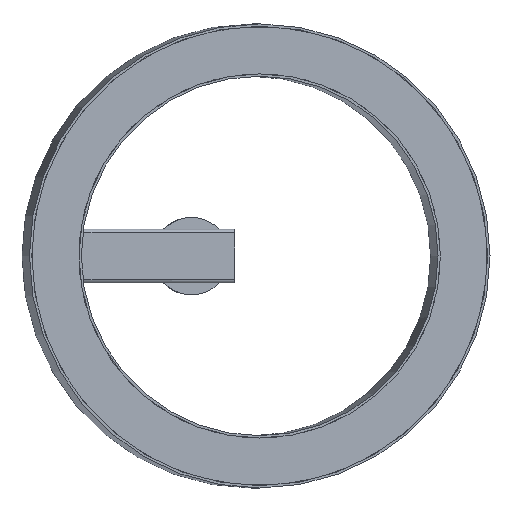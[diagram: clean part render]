
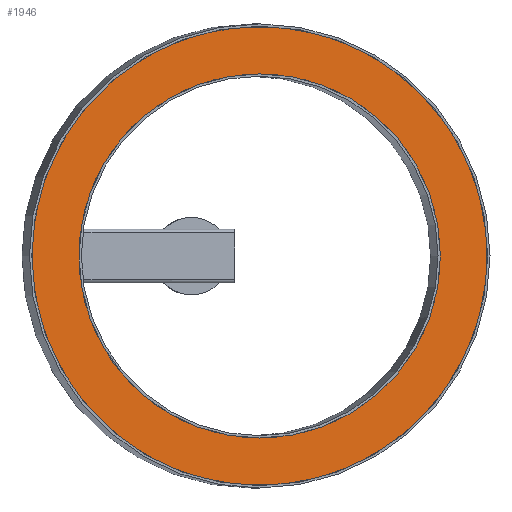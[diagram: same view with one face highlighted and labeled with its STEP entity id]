
A CAD part, top view. The second image highlights one B-rep face of the part: STEP entity #1946.
In plain terms, the highlighted planar face has unit normal (0.124, 0, 0.992) as drawn and (0, 1, 0) by its records, which use the part's own axes.
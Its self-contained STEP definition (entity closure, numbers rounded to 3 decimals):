
#489=FACE_BOUND('',#657,.T.);
#528=FACE_OUTER_BOUND('',#656,.T.);
#656=EDGE_LOOP('',(#1406,#1407));
#657=EDGE_LOOP('',(#1408,#1409));
#786=CIRCLE('',#2302,153.);
#788=CIRCLE('',#2304,153.);
#799=CIRCLE('',#2321,193.);
#800=CIRCLE('',#2322,193.);
#883=VERTEX_POINT('',#3228);
#884=VERTEX_POINT('',#3229);
#896=VERTEX_POINT('',#3264);
#897=VERTEX_POINT('',#3265);
#1068=EDGE_CURVE('',#883,#884,#786,.T.);
#1071=EDGE_CURVE('',#884,#883,#788,.T.);
#1085=EDGE_CURVE('',#896,#897,#799,.T.);
#1086=EDGE_CURVE('',#897,#896,#800,.T.);
#1406=ORIENTED_EDGE('',*,*,#1085,.T.);
#1407=ORIENTED_EDGE('',*,*,#1086,.T.);
#1408=ORIENTED_EDGE('',*,*,#1068,.F.);
#1409=ORIENTED_EDGE('',*,*,#1071,.F.);
#1865=PLANE('',#2324);
#1946=ADVANCED_FACE('',(#528,#489),#1865,.T.);
#2302=AXIS2_PLACEMENT_3D('',#3230,#2596,#2597);
#2304=AXIS2_PLACEMENT_3D('',#3234,#2601,#2602);
#2321=AXIS2_PLACEMENT_3D('',#3266,#2638,#2639);
#2322=AXIS2_PLACEMENT_3D('',#3267,#2640,#2641);
#2324=AXIS2_PLACEMENT_3D('',#3270,#2645,#2646);
#2596=DIRECTION('center_axis',(0.,1.,0.));
#2597=DIRECTION('ref_axis',(1.,0.,0.));
#2601=DIRECTION('center_axis',(0.,1.,0.));
#2602=DIRECTION('ref_axis',(1.,0.,0.));
#2638=DIRECTION('center_axis',(0.,1.,0.));
#2639=DIRECTION('ref_axis',(1.,0.,0.));
#2640=DIRECTION('center_axis',(0.,1.,0.));
#2641=DIRECTION('ref_axis',(1.,0.,0.));
#2645=DIRECTION('center_axis',(0.,1.,0.));
#2646=DIRECTION('ref_axis',(0.,0.,1.));
#3228=CARTESIAN_POINT('',(0.,1.,153.));
#3229=CARTESIAN_POINT('',(0.,1.,-153.));
#3230=CARTESIAN_POINT('Origin',(0.,1.,0.));
#3234=CARTESIAN_POINT('Origin',(0.,1.,0.));
#3264=CARTESIAN_POINT('',(0.,1.,193.));
#3265=CARTESIAN_POINT('',(0.,1.,-193.));
#3266=CARTESIAN_POINT('Origin',(0.,1.,0.));
#3267=CARTESIAN_POINT('Origin',(0.,1.,0.));
#3270=CARTESIAN_POINT('Origin',(-153.5,1.,0.));
